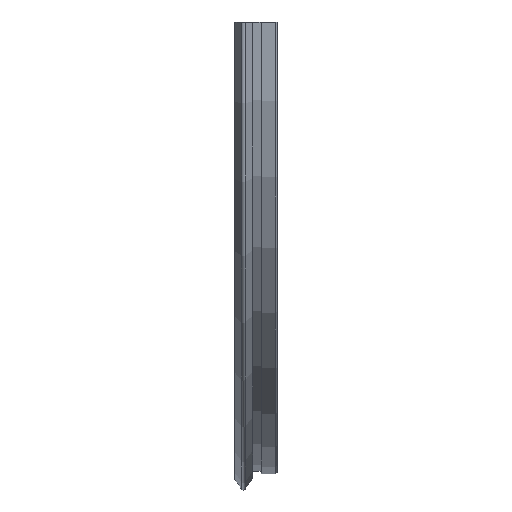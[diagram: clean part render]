
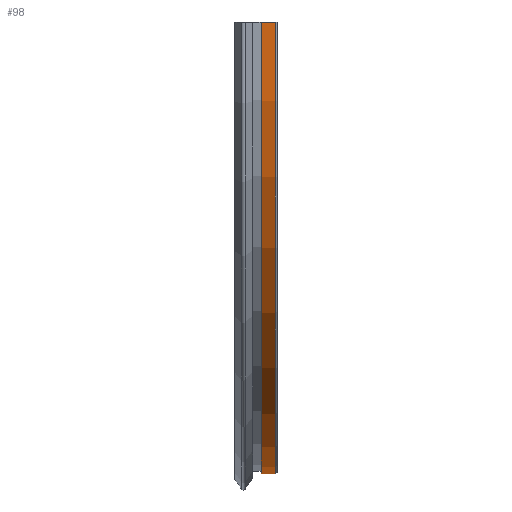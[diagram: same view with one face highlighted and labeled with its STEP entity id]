
A CAD part, left-side view. The second image highlights one B-rep face of the part: STEP entity #98.
In plain terms, the highlighted cylindrical face has radius 107.9 mm (diameter 215.8 mm), a partial arc.
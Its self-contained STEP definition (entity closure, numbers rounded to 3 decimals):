
#98=ADVANCED_FACE('',(#814),#815,.T.);
#814=FACE_OUTER_BOUND('',#2254,.T.);
#815=CYLINDRICAL_SURFACE('',#2255,107.9);
#2254=EDGE_LOOP('',(#3726,#3727,#3728,#3729));
#2255=AXIS2_PLACEMENT_3D('',#3730,#3731,#3732);
#3726=ORIENTED_EDGE('',*,*,#10028,.F.);
#3727=ORIENTED_EDGE('',*,*,#10041,.T.);
#3728=ORIENTED_EDGE('',*,*,#10042,.F.);
#3729=ORIENTED_EDGE('',*,*,#10043,.T.);
#3730=CARTESIAN_POINT('',(0.0,0.0,0.0));
#3731=DIRECTION('',(0.0,-1.0,0.0));
#3732=DIRECTION('',(0.0,0.0,-1.0));
#10028=EDGE_CURVE('',#12137,#12139,#12140,.T.);
#10041=EDGE_CURVE('',#12137,#12159,#12161,.T.);
#10042=EDGE_CURVE('',#12162,#12159,#12163,.F.);
#10043=EDGE_CURVE('',#12162,#12139,#12164,.T.);
#12137=VERTEX_POINT('',#15664);
#12139=VERTEX_POINT('',#15667);
#12140=LINE('',#15668,#15669);
#12159=VERTEX_POINT('',#15699);
#12161=CIRCLE('',#15702,107.9);
#12162=VERTEX_POINT('',#15703);
#12163=LINE('',#15704,#15705);
#12164=CIRCLE('',#15706,107.9);
#15664=CARTESIAN_POINT('',(-107.895,3.8,-1.0));
#15667=CARTESIAN_POINT('',(-107.895,0.4,-1.0));
#15668=CARTESIAN_POINT('',(-107.895,0.0,-1.0));
#15669=VECTOR('',#21119,1.0);
#15699=CARTESIAN_POINT('',(107.895,3.8,-1.0));
#15702=AXIS2_PLACEMENT_3D('',#21138,#21139,#21140);
#15703=CARTESIAN_POINT('',(107.895,0.4,-1.0));
#15704=CARTESIAN_POINT('',(107.895,0.0,-1.0));
#15705=VECTOR('',#21141,1.0);
#15706=AXIS2_PLACEMENT_3D('',#21142,#21143,#21144);
#21119=DIRECTION('',(0.0,-1.0,0.0));
#21138=CARTESIAN_POINT('',(0.0,3.8,0.0));
#21139=DIRECTION('',(0.0,-1.0,0.0));
#21140=DIRECTION('',(0.0,0.0,-1.0));
#21141=DIRECTION('',(0.0,-1.0,0.0));
#21142=CARTESIAN_POINT('',(0.0,0.4,0.0));
#21143=DIRECTION('',(0.0,1.0,0.0));
#21144=DIRECTION('',(0.0,0.0,1.0));
